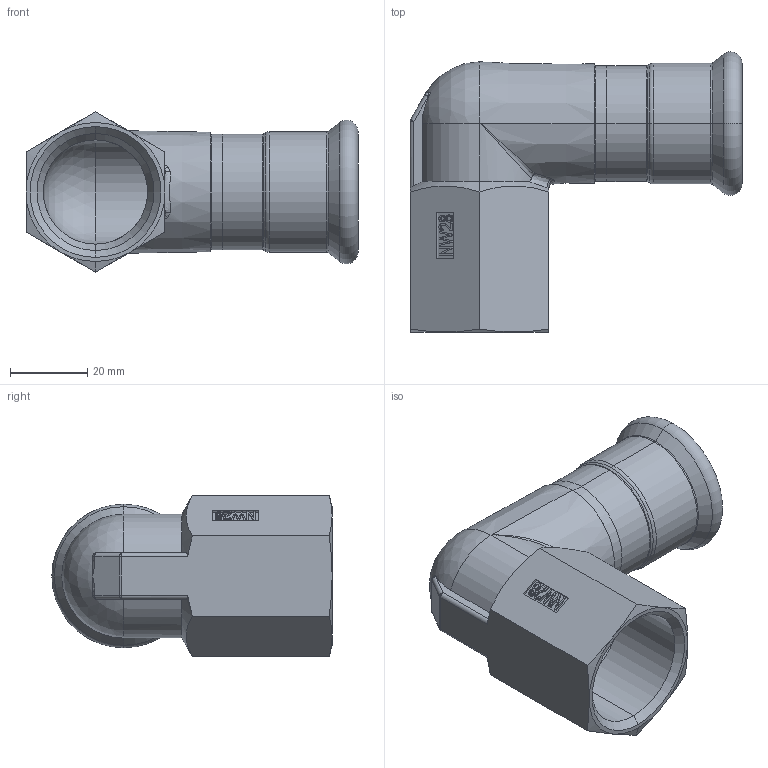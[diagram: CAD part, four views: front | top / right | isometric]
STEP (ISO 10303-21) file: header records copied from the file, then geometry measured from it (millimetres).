
FILE_DESCRIPTION (( 'STEP AP203' ), '1' );
FILE_NAME ('GDA5294.STEP', '2019-01-15T05:26:04', ( '' ), ( '' ), 'SwSTEP 2.0', 'SolidWorks 2015', '' );
FILE_SCHEMA (( 'CONFIG_CONTROL_DESIGN' ));
Length unit declared in the file: millimetre
Products named in the file (3): GDA5294; T-ｉ-01-28; OD28｡ﾁ1
Assembly tree (2 placements, depth 2):
  GDA5294
    OD28｡ﾁ1
    T-ｉ-01-28
Bounding box: 86 x 72.6 x 41.57 mm (x, y, z)
Volume: 33068 mm3; surface area: 25052.7 mm2
Topology: 2 solids, 2 shells, 163 faces, 388 edges, 232 vertices
Faces by surface type: plane 54, bspline 31, cylinder 30, cone 26, torus 16, sphere 6
Entity records: 6697 total; most frequent: CARTESIAN_POINT 2889, ORIENTED_EDGE 764, DIRECTION 666, EDGE_CURVE 382, AXIS2_PLACEMENT_3D 244, VERTEX_POINT 231, VECTOR 178, LINE 178
